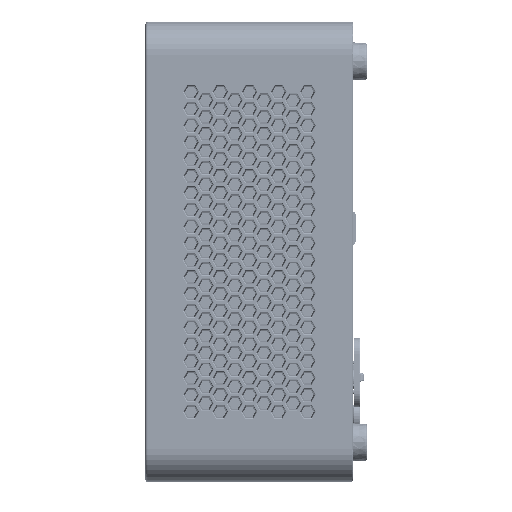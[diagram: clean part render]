
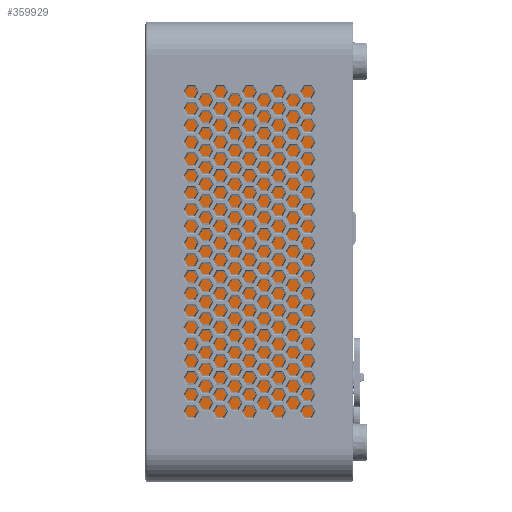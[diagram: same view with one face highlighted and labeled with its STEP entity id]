
A CAD part, left-side view. The second image highlights one B-rep face of the part: STEP entity #359929.
In plain terms, the highlighted planar face has unit normal (-1, 0, 0).
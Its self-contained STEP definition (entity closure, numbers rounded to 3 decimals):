
#359744=CARTESIAN_POINT('',(-56.3,6.2,-45.7));
#359745=DIRECTION('',(-1.,0.,0.));
#359746=DIRECTION('',(0.,0.,-1.));
#359747=AXIS2_PLACEMENT_3D('',#359744,#359745,#359746);
#359752=DIRECTION('',(0.,-1.,0.));
#359753=VECTOR('',#359752,33.5);
#359754=CARTESIAN_POINT('',(-56.3,39.7,-46.7));
#359755=LINE('',#359754,#359753);
#359759=DIRECTION('',(0.,0.,-1.));
#359760=VECTOR('',#359759,93.4);
#359761=CARTESIAN_POINT('',(-56.3,39.7,46.7));
#359762=LINE('',#359761,#359760);
#359766=DIRECTION('',(0.,1.,0.));
#359767=VECTOR('',#359766,33.5);
#359768=CARTESIAN_POINT('',(-56.3,6.2,46.7));
#359769=LINE('',#359768,#359767);
#359773=CARTESIAN_POINT('',(-56.3,6.2,45.7));
#359774=DIRECTION('',(-1.,0.,0.));
#359775=DIRECTION('',(0.,-1.,0.));
#359776=AXIS2_PLACEMENT_3D('',#359773,#359774,#359775);
#359781=DIRECTION('',(0.,0.,1.));
#359782=VECTOR('',#359781,91.4);
#359783=CARTESIAN_POINT('',(-56.3,5.2,-45.7));
#359784=LINE('',#359783,#359782);
#359792=CARTESIAN_POINT('',(-56.3,39.7,46.7));
#359793=CARTESIAN_POINT('',(-56.3,39.7,-46.7));
#359794=VERTEX_POINT('',#359792);
#359795=VERTEX_POINT('',#359793);
#359800=CARTESIAN_POINT('',(-56.3,6.2,-46.7));
#359801=VERTEX_POINT('',#359800);
#359802=CARTESIAN_POINT('',(-56.3,5.2,-45.7));
#359803=VERTEX_POINT('',#359802);
#359808=CARTESIAN_POINT('',(-56.3,5.2,45.7));
#359809=VERTEX_POINT('',#359808);
#359810=CARTESIAN_POINT('',(-56.3,6.2,46.7));
#359811=VERTEX_POINT('',#359810);
#359916=CARTESIAN_POINT('',(-56.3,0.,0.));
#359917=DIRECTION('',(-1.,0.,0.));
#359918=DIRECTION('',(0.,0.,1.));
#359919=AXIS2_PLACEMENT_3D('',#359916,#359917,#359918);
#359920=PLANE('',#359919);
#359921=ORIENTED_EDGE('',*,*,#359840,.F.);
#359922=ORIENTED_EDGE('',*,*,#359856,.F.);
#359923=ORIENTED_EDGE('',*,*,#359869,.F.);
#359924=ORIENTED_EDGE('',*,*,#359882,.F.);
#359925=ORIENTED_EDGE('',*,*,#359897,.F.);
#359926=ORIENTED_EDGE('',*,*,#359909,.F.);
#359927=EDGE_LOOP('',(#359921,#359922,#359923,#359924,#359925,#359926));
#359928=FACE_OUTER_BOUND('',#359927,.F.);
#359748=CIRCLE('',#359747,1.);
#359777=CIRCLE('',#359776,1.);
#359840=EDGE_CURVE('',#359801,#359803,#359748,.T.);
#359856=EDGE_CURVE('',#359795,#359801,#359755,.T.);
#359869=EDGE_CURVE('',#359794,#359795,#359762,.T.);
#359882=EDGE_CURVE('',#359811,#359794,#359769,.T.);
#359897=EDGE_CURVE('',#359809,#359811,#359777,.T.);
#359909=EDGE_CURVE('',#359803,#359809,#359784,.T.);
#359929=ADVANCED_FACE('',(#359928),#359920,.T.);
